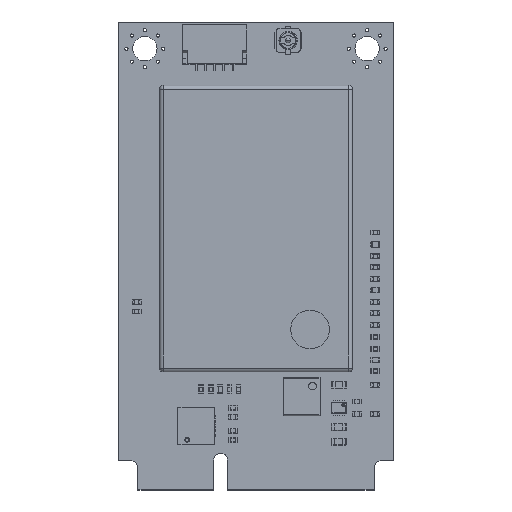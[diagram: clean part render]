
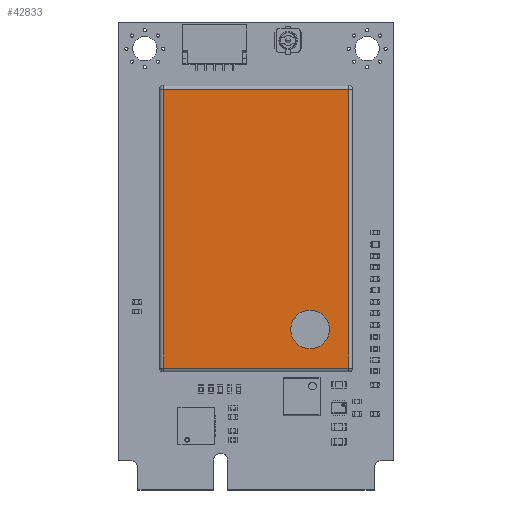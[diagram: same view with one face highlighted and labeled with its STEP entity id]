
A CAD part, top view. The second image highlights one B-rep face of the part: STEP entity #42833.
In plain terms, the highlighted planar face has unit normal (0, 0, 1).
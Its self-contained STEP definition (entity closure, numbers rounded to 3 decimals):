
#42179 = VERTEX_POINT('',#42180);
#42180 = CARTESIAN_POINT('',(-10.98,-7.98,3.5));
#42187 = CYLINDRICAL_SURFACE('',#42188,2.1);
#42188 = AXIS2_PLACEMENT_3D('',#42189,#42190,#42191);
#42189 = CARTESIAN_POINT('',(-10.98,-5.88,3.29));
#42190 = DIRECTION('',(0.,0.,1.));
#42191 = DIRECTION('',(0.,-1.,0.));
#42199 = CYLINDRICAL_SURFACE('',#42200,2.1);
#42200 = AXIS2_PLACEMENT_3D('',#42201,#42202,#42203);
#42201 = CARTESIAN_POINT('',(-10.98,-5.88,3.29));
#42202 = DIRECTION('',(0.,0.,1.));
#42203 = DIRECTION('',(0.,-1.,0.));
#42211 = EDGE_CURVE('',#42212,#42179,#42214,.T.);
#42212 = VERTEX_POINT('',#42213);
#42213 = CARTESIAN_POINT('',(-10.98,-3.78,3.5));
#42214 = SURFACE_CURVE('',#42215,(#42220,#42227),.PCURVE_S1.);
#42215 = CIRCLE('',#42216,2.1);
#42216 = AXIS2_PLACEMENT_3D('',#42217,#42218,#42219);
#42217 = CARTESIAN_POINT('',(-10.98,-5.88,3.5));
#42218 = DIRECTION('',(0.,0.,1.));
#42219 = DIRECTION('',(0.,-1.,0.));
#42220 = PCURVE('',#42187,#42221);
#42221 = DEFINITIONAL_REPRESENTATION('',(#42222),#42226);
#42222 = LINE('',#42223,#42224);
#42223 = CARTESIAN_POINT('',(0.,0.21));
#42224 = VECTOR('',#42225,1.);
#42225 = DIRECTION('',(1.,0.));
#42226 = ( GEOMETRIC_REPRESENTATION_CONTEXT(2) 
PARAMETRIC_REPRESENTATION_CONTEXT() REPRESENTATION_CONTEXT('2D SPACE',''
  ) );
#42227 = PCURVE('',#42228,#42233);
#42228 = PLANE('',#42229);
#42229 = AXIS2_PLACEMENT_3D('',#42230,#42231,#42232);
#42230 = CARTESIAN_POINT('',(0.,0.,3.5));
#42231 = DIRECTION('',(0.,0.,-1.));
#42232 = DIRECTION('',(0.,1.,0.));
#42233 = DEFINITIONAL_REPRESENTATION('',(#42234),#42242);
#42234 = ( BOUNDED_CURVE() B_SPLINE_CURVE(2,(#42235,#42236,#42237,#42238
    ,#42239,#42240,#42241),.UNSPECIFIED.,.T.,.F.) 
B_SPLINE_CURVE_WITH_KNOTS((1,2,2,2,2,1),(-2.094,0.,
    2.094,4.189,6.283,8.378),
.UNSPECIFIED.) CURVE() GEOMETRIC_REPRESENTATION_ITEM() 
RATIONAL_B_SPLINE_CURVE((1.,0.5,1.,0.5,1.,0.5,1.)) REPRESENTATION_ITEM(
  '') );
#42235 = CARTESIAN_POINT('',(-7.98,-10.98));
#42236 = CARTESIAN_POINT('',(-7.98,-7.343));
#42237 = CARTESIAN_POINT('',(-4.83,-9.161));
#42238 = CARTESIAN_POINT('',(-1.68,-10.98));
#42239 = CARTESIAN_POINT('',(-4.83,-12.799));
#42240 = CARTESIAN_POINT('',(-7.98,-14.617));
#42241 = CARTESIAN_POINT('',(-7.98,-10.98));
#42242 = ( GEOMETRIC_REPRESENTATION_CONTEXT(2) 
PARAMETRIC_REPRESENTATION_CONTEXT() REPRESENTATION_CONTEXT('2D SPACE',''
  ) );
#42572 = CYLINDRICAL_SURFACE('',#42573,0.42);
#42573 = AXIS2_PLACEMENT_3D('',#42574,#42575,#42576);
#42574 = CARTESIAN_POINT('',(15.18,0.,3.08));
#42575 = DIRECTION('',(0.,1.,0.));
#42576 = DIRECTION('',(-1.,0.,0.));
#42670 = CYLINDRICAL_SURFACE('',#42671,0.42);
#42671 = AXIS2_PLACEMENT_3D('',#42672,#42673,#42674);
#42672 = CARTESIAN_POINT('',(0.,10.08,3.08));
#42673 = DIRECTION('',(-1.,0.,0.));
#42674 = DIRECTION('',(0.,-1.,0.));
#42746 = CYLINDRICAL_SURFACE('',#42747,0.42);
#42747 = AXIS2_PLACEMENT_3D('',#42748,#42749,#42750);
#42748 = CARTESIAN_POINT('',(-15.18,0.,3.08));
#42749 = DIRECTION('',(0.,-1.,0.));
#42750 = DIRECTION('',(1.,0.,0.));
#42800 = CYLINDRICAL_SURFACE('',#42801,0.42);
#42801 = AXIS2_PLACEMENT_3D('',#42802,#42803,#42804);
#42802 = CARTESIAN_POINT('',(0.,-10.08,3.08));
#42803 = DIRECTION('',(1.,0.,0.));
#42804 = DIRECTION('',(0.,1.,0.));
#42833 = ADVANCED_FACE('',(#42834,#42863),#42228,.F.);
#42834 = FACE_BOUND('',#42835,.T.);
#42835 = EDGE_LOOP('',(#42836,#42862));
#42836 = ORIENTED_EDGE('',*,*,#42837,.F.);
#42837 = EDGE_CURVE('',#42179,#42212,#42838,.T.);
#42838 = SURFACE_CURVE('',#42839,(#42844,#42855),.PCURVE_S1.);
#42839 = CIRCLE('',#42840,2.1);
#42840 = AXIS2_PLACEMENT_3D('',#42841,#42842,#42843);
#42841 = CARTESIAN_POINT('',(-10.98,-5.88,3.5));
#42842 = DIRECTION('',(0.,0.,1.));
#42843 = DIRECTION('',(0.,-1.,0.));
#42844 = PCURVE('',#42228,#42845);
#42845 = DEFINITIONAL_REPRESENTATION('',(#42846),#42854);
#42846 = ( BOUNDED_CURVE() B_SPLINE_CURVE(2,(#42847,#42848,#42849,#42850
    ,#42851,#42852,#42853),.UNSPECIFIED.,.T.,.F.) 
B_SPLINE_CURVE_WITH_KNOTS((1,2,2,2,2,1),(-2.094,0.,
    2.094,4.189,6.283,8.378),
.UNSPECIFIED.) CURVE() GEOMETRIC_REPRESENTATION_ITEM() 
RATIONAL_B_SPLINE_CURVE((1.,0.5,1.,0.5,1.,0.5,1.)) REPRESENTATION_ITEM(
  '') );
#42847 = CARTESIAN_POINT('',(-7.98,-10.98));
#42848 = CARTESIAN_POINT('',(-7.98,-7.343));
#42849 = CARTESIAN_POINT('',(-4.83,-9.161));
#42850 = CARTESIAN_POINT('',(-1.68,-10.98));
#42851 = CARTESIAN_POINT('',(-4.83,-12.799));
#42852 = CARTESIAN_POINT('',(-7.98,-14.617));
#42853 = CARTESIAN_POINT('',(-7.98,-10.98));
#42854 = ( GEOMETRIC_REPRESENTATION_CONTEXT(2) 
PARAMETRIC_REPRESENTATION_CONTEXT() REPRESENTATION_CONTEXT('2D SPACE',''
  ) );
#42855 = PCURVE('',#42199,#42856);
#42856 = DEFINITIONAL_REPRESENTATION('',(#42857),#42861);
#42857 = LINE('',#42858,#42859);
#42858 = CARTESIAN_POINT('',(0.,0.21));
#42859 = VECTOR('',#42860,1.);
#42860 = DIRECTION('',(1.,0.));
#42861 = ( GEOMETRIC_REPRESENTATION_CONTEXT(2) 
PARAMETRIC_REPRESENTATION_CONTEXT() REPRESENTATION_CONTEXT('2D SPACE',''
  ) );
#42862 = ORIENTED_EDGE('',*,*,#42211,.F.);
#42863 = FACE_BOUND('',#42864,.F.);
#42864 = EDGE_LOOP('',(#42865,#42890,#42913,#42936));
#42865 = ORIENTED_EDGE('',*,*,#42866,.F.);
#42866 = EDGE_CURVE('',#42867,#42869,#42871,.T.);
#42867 = VERTEX_POINT('',#42868);
#42868 = CARTESIAN_POINT('',(-15.18,-10.08,3.5));
#42869 = VERTEX_POINT('',#42870);
#42870 = CARTESIAN_POINT('',(15.18,-10.08,3.5));
#42871 = SURFACE_CURVE('',#42872,(#42876,#42883),.PCURVE_S1.);
#42872 = LINE('',#42873,#42874);
#42873 = CARTESIAN_POINT('',(0.,-10.08,3.5));
#42874 = VECTOR('',#42875,1.);
#42875 = DIRECTION('',(1.,0.,0.));
#42876 = PCURVE('',#42228,#42877);
#42877 = DEFINITIONAL_REPRESENTATION('',(#42878),#42882);
#42878 = LINE('',#42879,#42880);
#42879 = CARTESIAN_POINT('',(-10.08,0.));
#42880 = VECTOR('',#42881,1.);
#42881 = DIRECTION('',(0.,1.));
#42882 = ( GEOMETRIC_REPRESENTATION_CONTEXT(2) 
PARAMETRIC_REPRESENTATION_CONTEXT() REPRESENTATION_CONTEXT('2D SPACE',''
  ) );
#42883 = PCURVE('',#42800,#42884);
#42884 = DEFINITIONAL_REPRESENTATION('',(#42885),#42889);
#42885 = LINE('',#42886,#42887);
#42886 = CARTESIAN_POINT('',(1.571,0.));
#42887 = VECTOR('',#42888,1.);
#42888 = DIRECTION('',(0.,1.));
#42889 = ( GEOMETRIC_REPRESENTATION_CONTEXT(2) 
PARAMETRIC_REPRESENTATION_CONTEXT() REPRESENTATION_CONTEXT('2D SPACE',''
  ) );
#42890 = ORIENTED_EDGE('',*,*,#42891,.F.);
#42891 = EDGE_CURVE('',#42892,#42867,#42894,.T.);
#42892 = VERTEX_POINT('',#42893);
#42893 = CARTESIAN_POINT('',(-15.18,10.08,3.5));
#42894 = SURFACE_CURVE('',#42895,(#42899,#42906),.PCURVE_S1.);
#42895 = LINE('',#42896,#42897);
#42896 = CARTESIAN_POINT('',(-15.18,0.,3.5));
#42897 = VECTOR('',#42898,1.);
#42898 = DIRECTION('',(0.,-1.,0.));
#42899 = PCURVE('',#42228,#42900);
#42900 = DEFINITIONAL_REPRESENTATION('',(#42901),#42905);
#42901 = LINE('',#42902,#42903);
#42902 = CARTESIAN_POINT('',(0.,-15.18));
#42903 = VECTOR('',#42904,1.);
#42904 = DIRECTION('',(-1.,0.));
#42905 = ( GEOMETRIC_REPRESENTATION_CONTEXT(2) 
PARAMETRIC_REPRESENTATION_CONTEXT() REPRESENTATION_CONTEXT('2D SPACE',''
  ) );
#42906 = PCURVE('',#42746,#42907);
#42907 = DEFINITIONAL_REPRESENTATION('',(#42908),#42912);
#42908 = LINE('',#42909,#42910);
#42909 = CARTESIAN_POINT('',(1.571,0.));
#42910 = VECTOR('',#42911,1.);
#42911 = DIRECTION('',(0.,1.));
#42912 = ( GEOMETRIC_REPRESENTATION_CONTEXT(2) 
PARAMETRIC_REPRESENTATION_CONTEXT() REPRESENTATION_CONTEXT('2D SPACE',''
  ) );
#42913 = ORIENTED_EDGE('',*,*,#42914,.F.);
#42914 = EDGE_CURVE('',#42915,#42892,#42917,.T.);
#42915 = VERTEX_POINT('',#42916);
#42916 = CARTESIAN_POINT('',(15.18,10.08,3.5));
#42917 = SURFACE_CURVE('',#42918,(#42922,#42929),.PCURVE_S1.);
#42918 = LINE('',#42919,#42920);
#42919 = CARTESIAN_POINT('',(0.,10.08,3.5));
#42920 = VECTOR('',#42921,1.);
#42921 = DIRECTION('',(-1.,0.,0.));
#42922 = PCURVE('',#42228,#42923);
#42923 = DEFINITIONAL_REPRESENTATION('',(#42924),#42928);
#42924 = LINE('',#42925,#42926);
#42925 = CARTESIAN_POINT('',(10.08,0.));
#42926 = VECTOR('',#42927,1.);
#42927 = DIRECTION('',(0.,-1.));
#42928 = ( GEOMETRIC_REPRESENTATION_CONTEXT(2) 
PARAMETRIC_REPRESENTATION_CONTEXT() REPRESENTATION_CONTEXT('2D SPACE',''
  ) );
#42929 = PCURVE('',#42670,#42930);
#42930 = DEFINITIONAL_REPRESENTATION('',(#42931),#42935);
#42931 = LINE('',#42932,#42933);
#42932 = CARTESIAN_POINT('',(1.571,0.));
#42933 = VECTOR('',#42934,1.);
#42934 = DIRECTION('',(0.,1.));
#42935 = ( GEOMETRIC_REPRESENTATION_CONTEXT(2) 
PARAMETRIC_REPRESENTATION_CONTEXT() REPRESENTATION_CONTEXT('2D SPACE',''
  ) );
#42936 = ORIENTED_EDGE('',*,*,#42937,.F.);
#42937 = EDGE_CURVE('',#42869,#42915,#42938,.T.);
#42938 = SURFACE_CURVE('',#42939,(#42943,#42950),.PCURVE_S1.);
#42939 = LINE('',#42940,#42941);
#42940 = CARTESIAN_POINT('',(15.18,0.,3.5));
#42941 = VECTOR('',#42942,1.);
#42942 = DIRECTION('',(0.,1.,0.));
#42943 = PCURVE('',#42228,#42944);
#42944 = DEFINITIONAL_REPRESENTATION('',(#42945),#42949);
#42945 = LINE('',#42946,#42947);
#42946 = CARTESIAN_POINT('',(0.,15.18));
#42947 = VECTOR('',#42948,1.);
#42948 = DIRECTION('',(1.,0.));
#42949 = ( GEOMETRIC_REPRESENTATION_CONTEXT(2) 
PARAMETRIC_REPRESENTATION_CONTEXT() REPRESENTATION_CONTEXT('2D SPACE',''
  ) );
#42950 = PCURVE('',#42572,#42951);
#42951 = DEFINITIONAL_REPRESENTATION('',(#42952),#42956);
#42952 = LINE('',#42953,#42954);
#42953 = CARTESIAN_POINT('',(1.571,0.));
#42954 = VECTOR('',#42955,1.);
#42955 = DIRECTION('',(0.,1.));
#42956 = ( GEOMETRIC_REPRESENTATION_CONTEXT(2) 
PARAMETRIC_REPRESENTATION_CONTEXT() REPRESENTATION_CONTEXT('2D SPACE',''
  ) );
